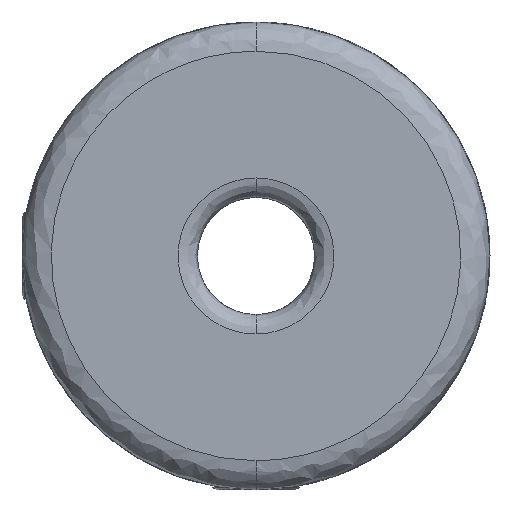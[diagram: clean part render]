
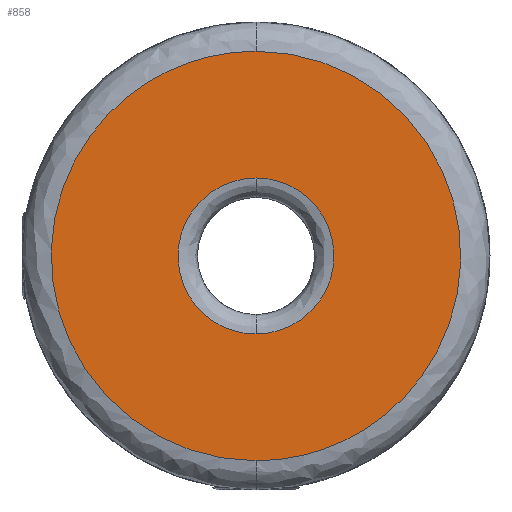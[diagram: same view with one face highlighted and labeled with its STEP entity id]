
A CAD part, left-side view. The second image highlights one B-rep face of the part: STEP entity #858.
In plain terms, the highlighted planar face has unit normal (-1, 0, 0).
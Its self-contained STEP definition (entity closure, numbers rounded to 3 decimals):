
#334 = VERTEX_POINT ( 'NONE', #1729 ) ;
#353 = EDGE_CURVE ( 'NONE', #334, #354, #1695, .T. ) ;
#354 = VERTEX_POINT ( 'NONE', #1696 ) ;
#383 = EDGE_CURVE ( 'NONE', #420, #384, #4137, .T. ) ;
#384 = VERTEX_POINT ( 'NONE', #4057 ) ;
#420 = VERTEX_POINT ( 'NONE', #4134 ) ;
#841 = EDGE_LOOP ( 'NONE', ( #842, #843 ) ) ;
#842 = ORIENTED_EDGE ( 'NONE', *, *, #383, .F. ) ;
#843 = ORIENTED_EDGE ( 'NONE', *, *, #995, .F. ) ;
#858 = ADVANCED_FACE ( 'NONE', ( #3081, #3080 ), #3078, .F. ) ;
#859 = EDGE_LOOP ( 'NONE', ( #860, #861 ) ) ;
#860 = ORIENTED_EDGE ( 'NONE', *, *, #955, .F. ) ;
#861 = ORIENTED_EDGE ( 'NONE', *, *, #353, .F. ) ;
#955 = EDGE_CURVE ( 'NONE', #354, #334, #3481, .T. ) ;
#995 = EDGE_CURVE ( 'NONE', #384, #420, #3953, .T. ) ;
#1691 = CARTESIAN_POINT ( 'NONE',  ( -7., 0., -5.25 ) ) ;
#1692 = CARTESIAN_POINT ( 'NONE',  ( -7., -10.5, -5.25 ) ) ;
#1693 = CARTESIAN_POINT ( 'NONE',  ( -7., -10.5, 5.25 ) ) ;
#1694 = CARTESIAN_POINT ( 'NONE',  ( -7., 0., 5.25 ) ) ;
#1695 =( BOUNDED_CURVE ( )  B_SPLINE_CURVE ( 3, ( #1694, #1693, #1692, #1691 ),
 .UNSPECIFIED., .F., .T. ) 
 B_SPLINE_CURVE_WITH_KNOTS ( ( 4, 4 ),
 ( 0.5, 1. ),
 .UNSPECIFIED. ) 
 CURVE ( )  GEOMETRIC_REPRESENTATION_ITEM ( )  RATIONAL_B_SPLINE_CURVE ( ( 1., 0.333, 0.333, 1. ) ) 
 REPRESENTATION_ITEM ( '' )  );
#1696 = CARTESIAN_POINT ( 'NONE',  ( -7., 0., -5.25 ) ) ;
#1729 = CARTESIAN_POINT ( 'NONE',  ( -7., 0., 5.25 ) ) ;
#3078 = PLANE ( 'NONE',  #3188 ) ;
#3080 = FACE_BOUND ( 'NONE', #841, .T. ) ;
#3081 = FACE_OUTER_BOUND ( 'NONE', #859, .T. ) ;
#3185 = DIRECTION ( 'NONE',  ( 0., 0., -1. ) ) ;
#3186 = DIRECTION ( 'NONE',  ( 1., 0., 0. ) ) ;
#3187 = CARTESIAN_POINT ( 'NONE',  ( -7., 0., 0. ) ) ;
#3188 = AXIS2_PLACEMENT_3D ( 'NONE', #3187, #3186, #3185 ) ;
#3481 =( BOUNDED_CURVE ( )  B_SPLINE_CURVE ( 3, ( #3645, #3644, #3643, #3642 ),
 .UNSPECIFIED., .F., .T. ) 
 B_SPLINE_CURVE_WITH_KNOTS ( ( 4, 4 ),
 ( 0., 0.5 ),
 .UNSPECIFIED. ) 
 CURVE ( )  GEOMETRIC_REPRESENTATION_ITEM ( )  RATIONAL_B_SPLINE_CURVE ( ( 1., 0.333, 0.333, 1. ) ) 
 REPRESENTATION_ITEM ( '' )  );
#3642 = CARTESIAN_POINT ( 'NONE',  ( -7., 0., 5.25 ) ) ;
#3643 = CARTESIAN_POINT ( 'NONE',  ( -7., 10.5, 5.25 ) ) ;
#3644 = CARTESIAN_POINT ( 'NONE',  ( -7., 10.5, -5.25 ) ) ;
#3645 = CARTESIAN_POINT ( 'NONE',  ( -7., 0., -5.25 ) ) ;
#3949 = CARTESIAN_POINT ( 'NONE',  ( -7., 0., -2. ) ) ;
#3950 = CARTESIAN_POINT ( 'NONE',  ( -7., 4., -2. ) ) ;
#3951 = CARTESIAN_POINT ( 'NONE',  ( -7., 4., 2. ) ) ;
#3952 = CARTESIAN_POINT ( 'NONE',  ( -7., 0., 2. ) ) ;
#3953 =( BOUNDED_CURVE ( )  B_SPLINE_CURVE ( 3, ( #3952, #3951, #3950, #3949 ),
 .UNSPECIFIED., .F., .F. ) 
 B_SPLINE_CURVE_WITH_KNOTS ( ( 4, 4 ),
 ( 0.5, 1. ),
 .UNSPECIFIED. ) 
 CURVE ( )  GEOMETRIC_REPRESENTATION_ITEM ( )  RATIONAL_B_SPLINE_CURVE ( ( 1., 0.333, 0.333, 1. ) ) 
 REPRESENTATION_ITEM ( '' )  );
#4031 = CARTESIAN_POINT ( 'NONE',  ( -7., -4., -2. ) ) ;
#4049 = CARTESIAN_POINT ( 'NONE',  ( -7., 0., 2. ) ) ;
#4050 = CARTESIAN_POINT ( 'NONE',  ( -7., -4., 2. ) ) ;
#4057 = CARTESIAN_POINT ( 'NONE',  ( -7., 0., 2. ) ) ;
#4134 = CARTESIAN_POINT ( 'NONE',  ( -7., 0., -2. ) ) ;
#4137 =( BOUNDED_CURVE ( )  B_SPLINE_CURVE ( 3, ( #4156, #4031, #4050, #4049 ),
 .UNSPECIFIED., .F., .F. ) 
 B_SPLINE_CURVE_WITH_KNOTS ( ( 4, 4 ),
 ( 0., 0.5 ),
 .UNSPECIFIED. ) 
 CURVE ( )  GEOMETRIC_REPRESENTATION_ITEM ( )  RATIONAL_B_SPLINE_CURVE ( ( 1., 0.333, 0.333, 1. ) ) 
 REPRESENTATION_ITEM ( '' )  );
#4156 = CARTESIAN_POINT ( 'NONE',  ( -7., 0., -2. ) ) ;
